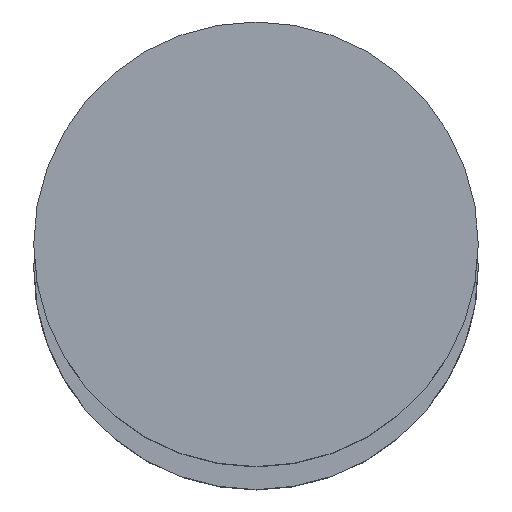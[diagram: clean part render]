
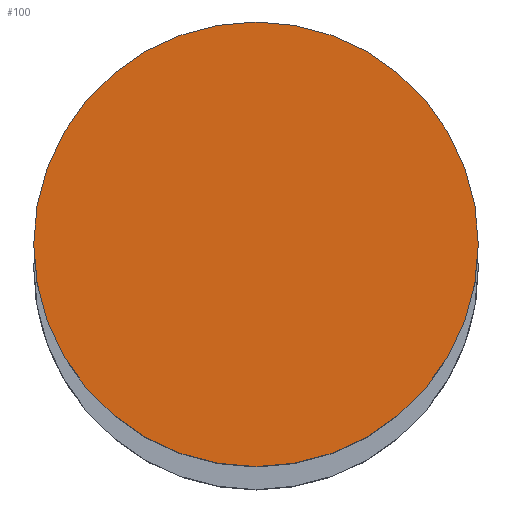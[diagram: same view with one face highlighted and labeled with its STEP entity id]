
A CAD part, top view. The second image highlights one B-rep face of the part: STEP entity #100.
In plain terms, the highlighted planar face has unit normal (0, 0, 1).
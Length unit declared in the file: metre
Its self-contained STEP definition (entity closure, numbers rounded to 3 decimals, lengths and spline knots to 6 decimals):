
#100=ADVANCED_FACE('25:217',(#193),#194,.T.);
#193=FACE_OUTER_BOUND('',#280,.T.);
#194=PLANE('',#281);
#280=EDGE_LOOP('',(#445,#446));
#281=AXIS2_PLACEMENT_3D('',#447,#448,#449);
#445=ORIENTED_EDGE('',*,*,#546,.F.);
#446=ORIENTED_EDGE('',*,*,#536,.F.);
#447=CARTESIAN_POINT('',(0.0,0.0,3.584));
#448=DIRECTION('',(0.0,0.0,1.0));
#449=DIRECTION('',(1.0,0.0,0.0));
#536=EDGE_CURVE('',#649,#651,#652,.F.);
#546=EDGE_CURVE('',#651,#649,#665,.F.);
#649=VERTEX_POINT('',#783);
#651=VERTEX_POINT('',#786);
#652=CIRCLE('',#787,0.0155);
#665=CIRCLE('',#802,0.0155);
#783=CARTESIAN_POINT('',(0.015408,0.000095,3.584));
#786=CARTESIAN_POINT('',(-0.015592,0.000095,3.584));
#787=AXIS2_PLACEMENT_3D('',#906,#907,#908);
#802=AXIS2_PLACEMENT_3D('',#926,#927,#928);
#906=CARTESIAN_POINT('',(-0.000092,0.000095,3.584));
#907=DIRECTION('',(0.0,0.0,1.0));
#908=DIRECTION('',(1.0,0.0,0.0));
#926=CARTESIAN_POINT('',(-0.000092,0.000095,3.584));
#927=DIRECTION('',(0.0,0.0,1.0));
#928=DIRECTION('',(1.0,0.0,0.0));
